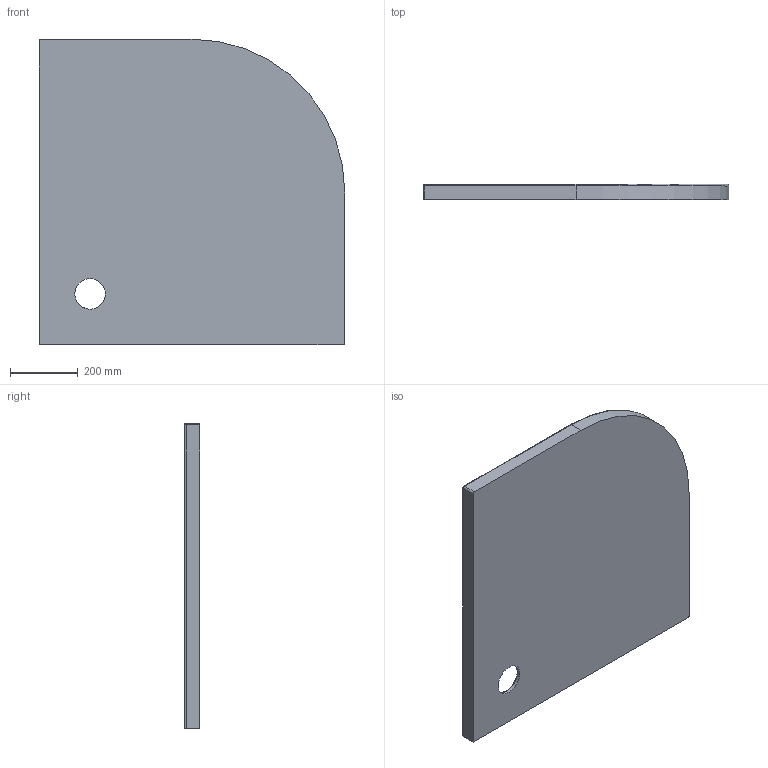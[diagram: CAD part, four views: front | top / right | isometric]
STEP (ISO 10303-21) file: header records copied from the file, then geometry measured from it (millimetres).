
FILE_DESCRIPTION(/* description */ (''),/* implementation_level */ '2;1');
FILE_NAME(/* name */ 'c:\worker\convert-fusion-r09\tmp\job-1\20\output\files\34c7e421-c850-4332-a133-aae41c56d957\ea5719ae-c946-4c76-b6d2-44348d02645a.stp',/* time_stamp */ '2020-01-03T08:30:20+00:00',/* author */ (''),/* organization */ (''),/* preprocessor_version */ 'ST-DEVELOPER v18',/* originating_system */ 'Autodesk Translation Framework v8.12.0.6',/* authorisation */ '');
FILE_SCHEMA (('AUTOMOTIVE_DESIGN { 1 0 10303 214 3 1 1 }'));
Length unit declared in the file: millimetre
Products named in the file (1): Merton 90/O
Bounding box: 900 x 45 x 900 mm (x, y, z)
Volume: 22119143 mm3; surface area: 1718416.1 mm2
Topology: 1 solids, 1 shells, 45 faces, 96 edges, 54 vertices
Faces by surface type: cylinder 20, plane 11, torus 5, sphere 5, bspline 4
Full cylindrical faces by diameter (mm): 90 x1
Entity records: 1821 total; most frequent: CARTESIAN_POINT 801, DIRECTION 221, ORIENTED_EDGE 194, EDGE_CURVE 97, AXIS2_PLACEMENT_3D 88, VERTEX_POINT 55, EDGE_LOOP 48, FACE_OUTER_BOUND 45
